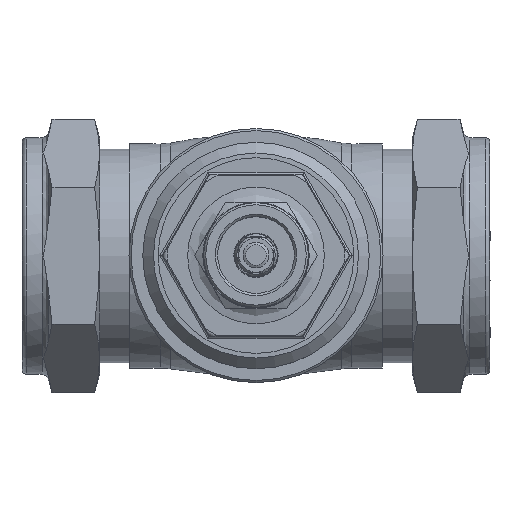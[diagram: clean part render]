
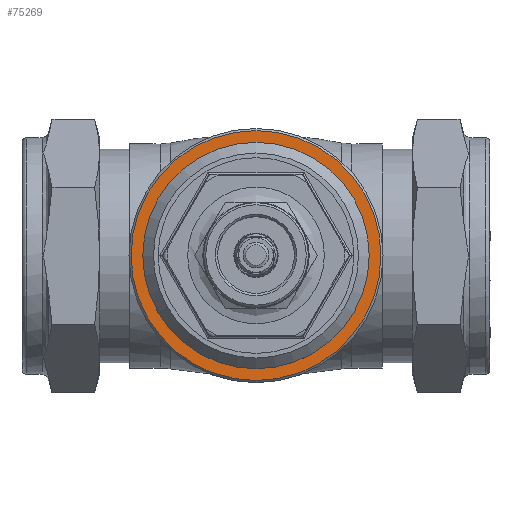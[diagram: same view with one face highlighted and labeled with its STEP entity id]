
A CAD part, top view. The second image highlights one B-rep face of the part: STEP entity #75269.
In plain terms, the highlighted planar face has unit normal (0, 0, 1).
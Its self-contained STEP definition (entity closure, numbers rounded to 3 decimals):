
#75109=CARTESIAN_POINT('',(17.75,0.0,59.));
#75110=VERTEX_POINT('',#75109);
#75111=CARTESIAN_POINT('',(44.25,0.0,59.0));
#75112=DIRECTION('',(0.0,0.0,-1.0));
#75113=DIRECTION('',(-1.0,0.0,0.0));
#75114=AXIS2_PLACEMENT_3D('',#75111,#75112,#75113);
#75115=CIRCLE('',#75114,26.5);
#75116=EDGE_CURVE('',#75110,#75110,#75115,.T.);
#75250=CARTESIAN_POINT('',(44.25,0.,59.0));
#75251=DIRECTION('',(0.0,0.0,1.0));
#75252=DIRECTION('',(1.0,0.0,0.0));
#75253=AXIS2_PLACEMENT_3D('',#75250,#75251,#75252);
#75254=PLANE('',#75253);
#75255=CARTESIAN_POINT('',(73.5,0.,59.0));
#75256=VERTEX_POINT('',#75255);
#75257=CARTESIAN_POINT('',(44.25,0.0,59.0));
#75258=DIRECTION('',(0.0,0.0,-1.0));
#75259=DIRECTION('',(-1.0,0.0,0.0));
#75260=AXIS2_PLACEMENT_3D('',#75257,#75258,#75259);
#75261=CIRCLE('',#75260,29.25);
#75262=EDGE_CURVE('',#75256,#75256,#75261,.T.);
#75263=ORIENTED_EDGE('',*,*,#75262,.F.);
#75264=EDGE_LOOP('',(#75263));
#75265=FACE_OUTER_BOUND('',#75264,.T.);
#75266=ORIENTED_EDGE('',*,*,#75116,.T.);
#75267=EDGE_LOOP('',(#75266));
#75268=FACE_BOUND('',#75267,.T.);
#75269=ADVANCED_FACE('',(#75265,#75268),#75254,.T.);
